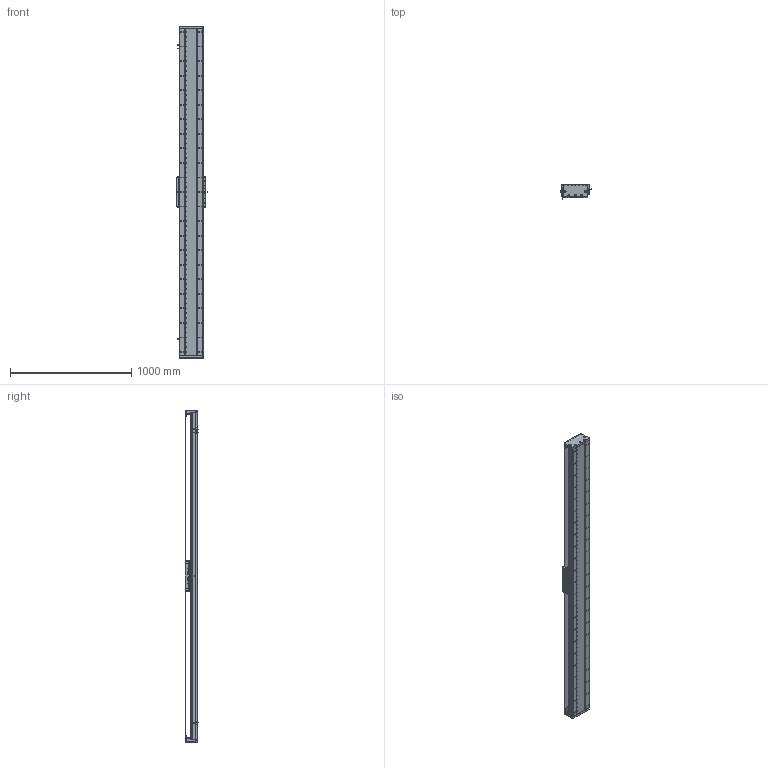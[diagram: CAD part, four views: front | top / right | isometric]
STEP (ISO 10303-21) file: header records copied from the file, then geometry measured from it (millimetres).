
FILE_DESCRIPTION (( 'STEP AP203' ), '1' );
FILE_NAME ('DA-C195-C3-T2400-C010-0.2 眻盄萇儂.STEP', '2025-08-15T01:32:39', ( '' ), ( '' ), 'SwSTEP 2.0', 'SolidWorks 2019', '' );
FILE_SCHEMA (( 'CONFIG_CONTROL_DESIGN' ));
Length unit declared in the file: millimetre
Products named in the file (15): CU195-C3賑輸-俋楷; 葩璃 DA95-GT-T-00; DA195詩湍裔啣; PM-T45ㄗ侂狟ㄘ; DA-C195-GD-DB-H-00 傷啣; MS200 棠掑喜S315-T240; DA195詩湍嶺輸; DA195詩湍郪璃; DA95-HXJ-00 遣喳砎蝶; LMT黍杅芛; IU-CU195-L-00 菁釱(L2700); DA-C195-C3-T2400-C010-0.2 眻盄萇儂; DA195詩湍菜輸; IU-CU195-L 菁釱絳寢; DA165-GYP-00 光电感应片(默认)
Assembly tree (29 placements, depth 3):
  DA-C195-C3-T2400-C010-0.2 眻盄萇儂
    DA195詩湍郪璃
      DA195詩湍菜輸  x2
      DA195詩湍裔啣
      DA195詩湍嶺輸  x2
      DA95-HXJ-00 遣喳砎蝶  x8
      DA-C195-GD-DB-H-00 傷啣  x2
    IU-CU195-L 菁釱絳寢
      IU-CU195-L-00 菁釱(L2700)
      葩璃 DA95-GT-T-00  x4
    LMT黍杅芛
    MS200 棠掑喜S315-T240
    PM-T45ㄗ侂狟ㄘ  x3
    DA165-GYP-00 光电感应片(默认)
    CU195-C3賑輸-俋楷
Bounding box: 248 x 115.45 x 2740 mm (x, y, z)
Volume: 16030903.4 mm3; surface area: 4716236.2 mm2
Topology: 86 solids, 118 shells, 4386 faces, 12399 edges, 7825 vertices
Faces by surface type: cylinder 2418, plane 1366, cone 514, torus 52, sphere 36
Entity records: 142335 total; most frequent: CARTESIAN_POINT 38912, ORIENTED_EDGE 21714, DIRECTION 20766, EDGE_CURVE 10857, AXIS2_PLACEMENT_3D 7801, VERTEX_POINT 7027, LINE 5164, VECTOR 5164
